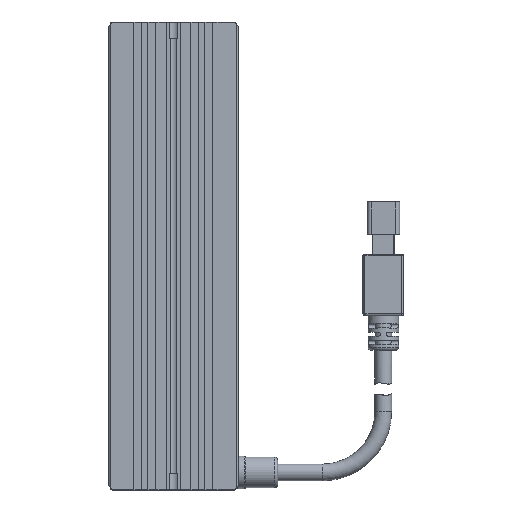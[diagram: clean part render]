
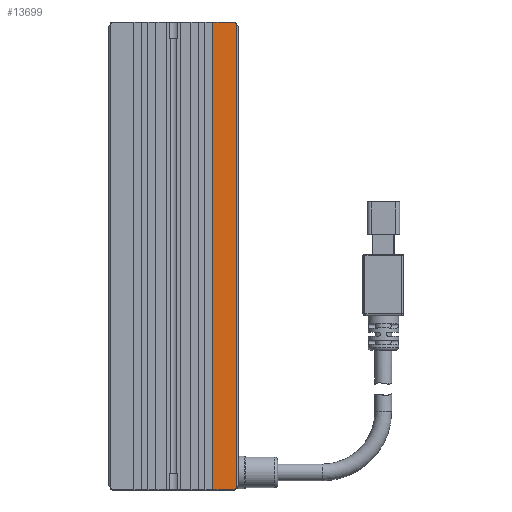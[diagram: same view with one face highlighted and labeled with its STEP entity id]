
A CAD part, top view. The second image highlights one B-rep face of the part: STEP entity #13699.
In plain terms, the highlighted planar face has unit normal (0, 0, 1).
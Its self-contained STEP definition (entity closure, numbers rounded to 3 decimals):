
#309 = CARTESIAN_POINT ( 'NONE',  ( 9.7, 57.5, 12.5 ) ) ;
#738 = VERTEX_POINT ( 'NONE', #2960 ) ;
#1560 = EDGE_CURVE ( 'NONE', #17537, #738, #9714, .T. ) ;
#1674 = DIRECTION ( 'NONE',  ( 1., 0., 0. ) ) ;
#1790 = EDGE_LOOP ( 'NONE', ( #5629, #8934, #12857, #13437, #12183, #9072 ) ) ;
#2262 = FACE_OUTER_BOUND ( 'NONE', #1790, .T. ) ;
#2281 = VECTOR ( 'NONE', #10411, 1000. ) ;
#2510 = CARTESIAN_POINT ( 'NONE',  ( 15.5, 57.5, 12.5 ) ) ;
#2613 = CARTESIAN_POINT ( 'NONE',  ( 9.7, -57.5, 12.5 ) ) ;
#2931 = DIRECTION ( 'NONE',  ( 0., -1., 0. ) ) ;
#2960 = CARTESIAN_POINT ( 'NONE',  ( 15., 57.5, 12.5 ) ) ;
#3127 = CARTESIAN_POINT ( 'NONE',  ( 15.5, 57.5, 12.5 ) ) ;
#3745 = VECTOR ( 'NONE', #9319, 1000. ) ;
#4138 = DIRECTION ( 'NONE',  ( -1., 0., 0. ) ) ;
#4200 = LINE ( 'NONE', #8508, #15575 ) ;
#4520 = EDGE_CURVE ( 'NONE', #17537, #17067, #17688, .T. ) ;
#4737 = DIRECTION ( 'NONE',  ( 0.707, 0.707, 0. ) ) ;
#5521 = VERTEX_POINT ( 'NONE', #16812 ) ;
#5629 = ORIENTED_EDGE ( 'NONE', *, *, #4520, .F. ) ;
#6361 = DIRECTION ( 'NONE',  ( 0., -1., 0. ) ) ;
#6692 = CARTESIAN_POINT ( 'NONE',  ( 15.5, -57.5, 12.5 ) ) ;
#7073 = CARTESIAN_POINT ( 'NONE',  ( 15.5, -57., 12.5 ) ) ;
#7106 = EDGE_CURVE ( 'NONE', #5521, #17067, #17828, .T. ) ;
#8508 = CARTESIAN_POINT ( 'NONE',  ( 9.7, 57.5, 12.5 ) ) ;
#8934 = ORIENTED_EDGE ( 'NONE', *, *, #1560, .T. ) ;
#9008 = CARTESIAN_POINT ( 'NONE',  ( 15., 57.5, 12.5 ) ) ;
#9072 = ORIENTED_EDGE ( 'NONE', *, *, #7106, .T. ) ;
#9187 = EDGE_CURVE ( 'NONE', #16442, #738, #9681, .T. ) ;
#9319 = DIRECTION ( 'NONE',  ( 1., 0., 0. ) ) ;
#9557 = EDGE_CURVE ( 'NONE', #16442, #13918, #4200, .T. ) ;
#9681 = LINE ( 'NONE', #3127, #14511 ) ;
#9714 = LINE ( 'NONE', #9008, #2281 ) ;
#10411 = DIRECTION ( 'NONE',  ( -0.707, 0.707, 0. ) ) ;
#11843 = LINE ( 'NONE', #6692, #3745 ) ;
#12183 = ORIENTED_EDGE ( 'NONE', *, *, #15819, .T. ) ;
#12650 = DIRECTION ( 'NONE',  ( 0., 0., -1. ) ) ;
#12716 = CARTESIAN_POINT ( 'NONE',  ( 15.5, 57.5, 12.5 ) ) ;
#12857 = ORIENTED_EDGE ( 'NONE', *, *, #9187, .F. ) ;
#13296 = CARTESIAN_POINT ( 'NONE',  ( 15.5, 57., 12.5 ) ) ;
#13437 = ORIENTED_EDGE ( 'NONE', *, *, #9557, .T. ) ;
#13699 = ADVANCED_FACE ( 'NONE', ( #2262 ), #16652, .F. ) ;
#13918 = VERTEX_POINT ( 'NONE', #2613 ) ;
#13938 = VECTOR ( 'NONE', #4737, 1000. ) ;
#14511 = VECTOR ( 'NONE', #1674, 1000. ) ;
#14804 = CARTESIAN_POINT ( 'NONE',  ( 16., -56.5, 12.5 ) ) ;
#15290 = VECTOR ( 'NONE', #6361, 1000. ) ;
#15575 = VECTOR ( 'NONE', #2931, 1000. ) ;
#15819 = EDGE_CURVE ( 'NONE', #13918, #5521, #11843, .T. ) ;
#16442 = VERTEX_POINT ( 'NONE', #309 ) ;
#16652 = PLANE ( 'NONE',  #17105 ) ;
#16812 = CARTESIAN_POINT ( 'NONE',  ( 15., -57.5, 12.5 ) ) ;
#17067 = VERTEX_POINT ( 'NONE', #7073 ) ;
#17105 = AXIS2_PLACEMENT_3D ( 'NONE', #12716, #12650, #4138 ) ;
#17537 = VERTEX_POINT ( 'NONE', #13296 ) ;
#17688 = LINE ( 'NONE', #2510, #15290 ) ;
#17828 = LINE ( 'NONE', #14804, #13938 ) ;
